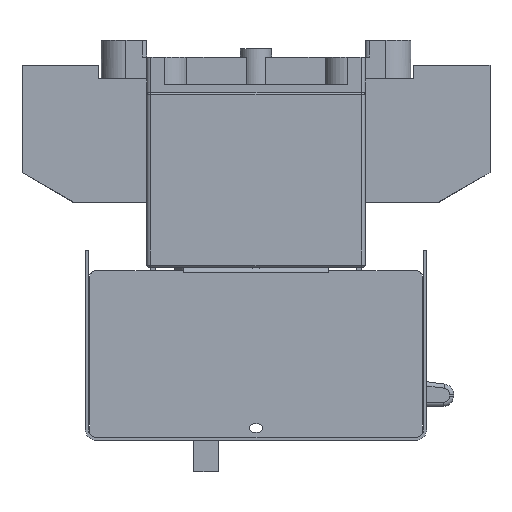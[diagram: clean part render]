
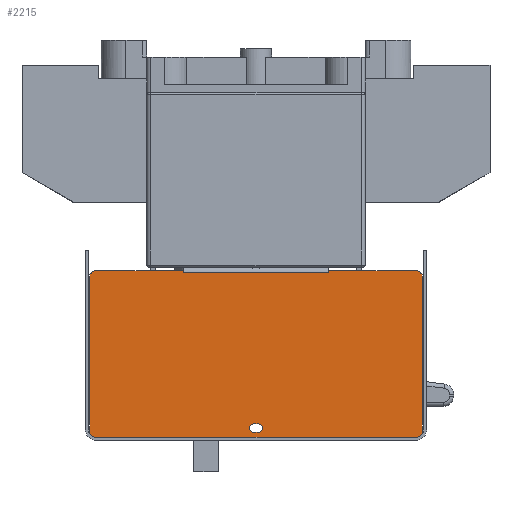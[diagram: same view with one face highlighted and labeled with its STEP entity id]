
A CAD part, left-side view. The second image highlights one B-rep face of the part: STEP entity #2215.
In plain terms, the highlighted planar face has unit normal (-1, 0, 0).
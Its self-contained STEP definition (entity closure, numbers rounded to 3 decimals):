
#2215=ADVANCED_FACE('',(#9313,#9314),#3324,.T.);
#3324=PLANE('',#25548);
#5107=LINE('',#37103,#7808);
#5117=LINE('',#37128,#7818);
#5119=LINE('',#37132,#7820);
#5121=LINE('',#37136,#7822);
#5124=LINE('',#37142,#7825);
#5134=LINE('',#37177,#7835);
#5135=LINE('',#37181,#7836);
#5136=LINE('',#37182,#7837);
#5137=LINE('',#37186,#7838);
#5138=LINE('',#37190,#7839);
#5139=LINE('',#37194,#7840);
#5140=LINE('',#37198,#7841);
#7808=VECTOR('',#29856,1.);
#7818=VECTOR('',#29882,1.);
#7820=VECTOR('',#29886,1.);
#7822=VECTOR('',#29890,1.);
#7825=VECTOR('',#29895,1.);
#7835=VECTOR('',#29923,1.);
#7836=VECTOR('',#29926,1.);
#7837=VECTOR('',#29927,1.);
#7838=VECTOR('',#29930,1.);
#7839=VECTOR('',#29933,1.);
#7840=VECTOR('',#29936,1.);
#7841=VECTOR('',#29939,1.);
#9313=FACE_BOUND('',#10126,.T.);
#9314=FACE_BOUND('',#10127,.T.);
#10126=EDGE_LOOP('',(#14289,#14290,#14291,#14292));
#10127=EDGE_LOOP('',(#14293,#14294,#14295,#14296,#14297,#14298,#14299,#14300,
#14301,#14302,#14303,#14304,#14305,#14306));
#14289=ORIENTED_EDGE('',*,*,#21995,.T.);
#14290=ORIENTED_EDGE('',*,*,#21996,.T.);
#14291=ORIENTED_EDGE('',*,*,#21997,.T.);
#14292=ORIENTED_EDGE('',*,*,#21998,.T.);
#14293=ORIENTED_EDGE('',*,*,#21974,.F.);
#14294=ORIENTED_EDGE('',*,*,#21972,.T.);
#14295=ORIENTED_EDGE('',*,*,#21959,.T.);
#14296=ORIENTED_EDGE('',*,*,#21976,.T.);
#14297=ORIENTED_EDGE('',*,*,#21979,.F.);
#14298=ORIENTED_EDGE('',*,*,#21999,.T.);
#14299=ORIENTED_EDGE('',*,*,#22000,.T.);
#14300=ORIENTED_EDGE('',*,*,#22001,.T.);
#14301=ORIENTED_EDGE('',*,*,#22002,.T.);
#14302=ORIENTED_EDGE('',*,*,#22003,.T.);
#14303=ORIENTED_EDGE('',*,*,#22004,.T.);
#14304=ORIENTED_EDGE('',*,*,#22005,.T.);
#14305=ORIENTED_EDGE('',*,*,#22006,.T.);
#14306=ORIENTED_EDGE('',*,*,#22007,.T.);
#19100=VERTEX_POINT('',#37102);
#19101=VERTEX_POINT('',#37104);
#19106=VERTEX_POINT('',#37125);
#19109=VERTEX_POINT('',#37133);
#19110=VERTEX_POINT('',#37137);
#19112=VERTEX_POINT('',#37143);
#19126=VERTEX_POINT('',#37175);
#19127=VERTEX_POINT('',#37176);
#19128=VERTEX_POINT('',#37178);
#19129=VERTEX_POINT('',#37180);
#19130=VERTEX_POINT('',#37183);
#19131=VERTEX_POINT('',#37185);
#19132=VERTEX_POINT('',#37187);
#19133=VERTEX_POINT('',#37189);
#19134=VERTEX_POINT('',#37191);
#19135=VERTEX_POINT('',#37193);
#19136=VERTEX_POINT('',#37195);
#19137=VERTEX_POINT('',#37197);
#21959=EDGE_CURVE('',#19101,#19100,#5107,.T.);
#21972=EDGE_CURVE('',#19106,#19101,#5117,.T.);
#21974=EDGE_CURVE('',#19106,#19109,#5119,.T.);
#21976=EDGE_CURVE('',#19100,#19110,#5121,.T.);
#21979=EDGE_CURVE('',#19112,#19110,#5124,.T.);
#21995=EDGE_CURVE('',#19126,#19127,#24127,.T.);
#21996=EDGE_CURVE('',#19127,#19128,#5134,.T.);
#21997=EDGE_CURVE('',#19128,#19129,#24128,.T.);
#21998=EDGE_CURVE('',#19129,#19126,#5135,.T.);
#21999=EDGE_CURVE('',#19112,#19130,#5136,.T.);
#22000=EDGE_CURVE('',#19130,#19131,#24129,.T.);
#22001=EDGE_CURVE('',#19131,#19132,#5137,.T.);
#22002=EDGE_CURVE('',#19132,#19133,#24130,.T.);
#22003=EDGE_CURVE('',#19133,#19134,#5138,.T.);
#22004=EDGE_CURVE('',#19134,#19135,#24131,.T.);
#22005=EDGE_CURVE('',#19135,#19136,#5139,.T.);
#22006=EDGE_CURVE('',#19136,#19137,#24132,.T.);
#22007=EDGE_CURVE('',#19137,#19109,#5140,.T.);
#24127=CIRCLE('',#25542,2.1);
#24128=CIRCLE('',#25543,2.1);
#24129=CIRCLE('',#25544,3.);
#24130=CIRCLE('',#25545,3.);
#24131=CIRCLE('',#25546,3.);
#24132=CIRCLE('',#25547,3.);
#25542=AXIS2_PLACEMENT_3D('',#37174,#29921,#29922);
#25543=AXIS2_PLACEMENT_3D('',#37179,#29924,#29925);
#25544=AXIS2_PLACEMENT_3D('',#37184,#29928,#29929);
#25545=AXIS2_PLACEMENT_3D('',#37188,#29931,#29932);
#25546=AXIS2_PLACEMENT_3D('',#37192,#29934,#29935);
#25547=AXIS2_PLACEMENT_3D('',#37196,#29937,#29938);
#25548=AXIS2_PLACEMENT_3D('',#37199,#29940,#29941);
#29856=DIRECTION('',(0.,1.,0.));
#29882=DIRECTION('',(0.,1.,0.));
#29886=DIRECTION('',(0.,0.,1.));
#29890=DIRECTION('',(0.,1.,0.));
#29895=DIRECTION('',(0.,0.,-1.));
#29921=DIRECTION('',(1.,0.,0.));
#29922=DIRECTION('',(0.,1.,0.));
#29923=DIRECTION('',(0.,-1.,0.));
#29924=DIRECTION('',(1.,0.,0.));
#29925=DIRECTION('',(0.,1.,0.));
#29926=DIRECTION('',(0.,1.,0.));
#29927=DIRECTION('',(0.,1.,0.));
#29928=DIRECTION('',(-1.,0.,0.));
#29929=DIRECTION('',(0.,1.,0.));
#29930=DIRECTION('',(0.,0.,-1.));
#29931=DIRECTION('',(-1.,0.,0.));
#29932=DIRECTION('',(0.,1.,0.));
#29933=DIRECTION('',(0.,-1.,0.));
#29934=DIRECTION('',(-1.,0.,0.));
#29935=DIRECTION('',(0.,1.,0.));
#29936=DIRECTION('',(0.,0.,1.));
#29937=DIRECTION('',(-1.,0.,0.));
#29938=DIRECTION('',(0.,1.,0.));
#29939=DIRECTION('',(0.,1.,0.));
#29940=DIRECTION('',(-1.,0.,0.));
#29941=DIRECTION('',(0.,-1.,0.));
#37102=CARTESIAN_POINT('',(-189.3,35.,-86.8));
#37103=CARTESIAN_POINT('',(-189.3,50.5,-86.8));
#37104=CARTESIAN_POINT('',(-189.3,-35.,-86.8));
#37125=CARTESIAN_POINT('',(-189.3,-35.002,-86.8));
#37128=CARTESIAN_POINT('',(-189.3,77.,-86.8));
#37132=CARTESIAN_POINT('',(-189.3,-35.002,-162.8));
#37133=CARTESIAN_POINT('',(-189.3,-35.002,-85.8));
#37136=CARTESIAN_POINT('',(-189.3,77.,-86.8));
#37137=CARTESIAN_POINT('',(-189.3,35.002,-86.8));
#37142=CARTESIAN_POINT('',(-189.3,35.002,-162.8));
#37143=CARTESIAN_POINT('',(-189.3,35.002,-85.8));
#37174=CARTESIAN_POINT('',(-189.3,1.,-161.4));
#37175=CARTESIAN_POINT('',(-189.3,1.,-163.5));
#37176=CARTESIAN_POINT('',(-189.3,1.,-159.3));
#37177=CARTESIAN_POINT('',(-189.3,1.,-159.3));
#37178=CARTESIAN_POINT('',(-189.3,-1.,-159.3));
#37179=CARTESIAN_POINT('',(-189.3,-1.,-161.4));
#37180=CARTESIAN_POINT('',(-189.3,-1.,-163.5));
#37181=CARTESIAN_POINT('',(-189.3,-1.,-163.5));
#37182=CARTESIAN_POINT('',(-189.3,-77.,-85.8));
#37183=CARTESIAN_POINT('',(-189.3,77.,-85.8));
#37184=CARTESIAN_POINT('',(-189.3,77.,-88.8));
#37185=CARTESIAN_POINT('',(-189.3,80.,-88.8));
#37186=CARTESIAN_POINT('',(-189.3,80.,-88.8));
#37187=CARTESIAN_POINT('',(-189.3,80.,-162.8));
#37188=CARTESIAN_POINT('',(-189.3,77.,-162.8));
#37189=CARTESIAN_POINT('',(-189.3,77.,-165.8));
#37190=CARTESIAN_POINT('',(-189.3,77.,-165.8));
#37191=CARTESIAN_POINT('',(-189.3,-77.,-165.8));
#37192=CARTESIAN_POINT('',(-189.3,-77.,-162.8));
#37193=CARTESIAN_POINT('',(-189.3,-80.,-162.8));
#37194=CARTESIAN_POINT('',(-189.3,-80.,-162.8));
#37195=CARTESIAN_POINT('',(-189.3,-80.,-88.8));
#37196=CARTESIAN_POINT('',(-189.3,-77.,-88.8));
#37197=CARTESIAN_POINT('',(-189.3,-77.,-85.8));
#37198=CARTESIAN_POINT('',(-189.3,-77.,-85.8));
#37199=CARTESIAN_POINT('',(-189.3,77.,-162.8));
